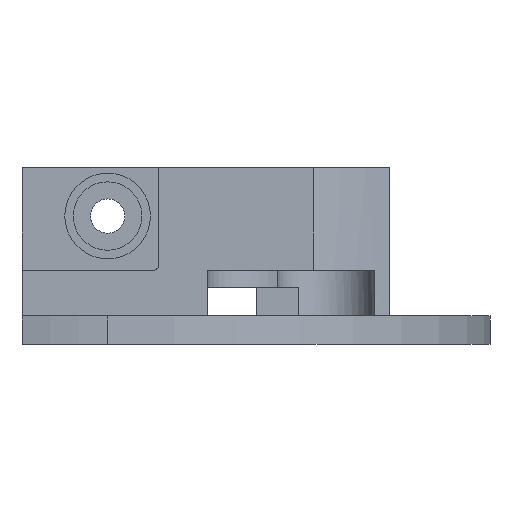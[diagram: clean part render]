
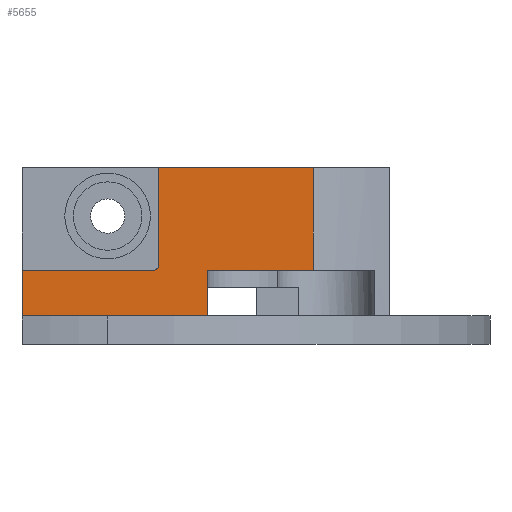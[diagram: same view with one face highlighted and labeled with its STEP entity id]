
A CAD part, left-side view. The second image highlights one B-rep face of the part: STEP entity #5655.
In plain terms, the highlighted planar face has unit normal (-1, 0, 0).
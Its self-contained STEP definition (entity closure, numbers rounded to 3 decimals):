
#29 = EDGE_CURVE ( 'NONE', #5305, #620, #4149, .T. ) ;
#215 = DIRECTION ( 'NONE',  ( 0., 0., 1. ) ) ;
#324 = ORIENTED_EDGE ( 'NONE', *, *, #835, .F. ) ;
#400 = DIRECTION ( 'NONE',  ( 0., 0., 1. ) ) ;
#469 = VERTEX_POINT ( 'NONE', #3338 ) ;
#477 = LINE ( 'NONE', #1999, #4125 ) ;
#482 = AXIS2_PLACEMENT_3D ( 'NONE', #947, #5920, #6384 ) ;
#568 = AXIS2_PLACEMENT_3D ( 'NONE', #714, #5584, #3489 ) ;
#620 = VERTEX_POINT ( 'NONE', #4646 ) ;
#714 = CARTESIAN_POINT ( 'NONE',  ( -56.5, 0., 33. ) ) ;
#737 = ORIENTED_EDGE ( 'NONE', *, *, #6151, .F. ) ;
#740 = LINE ( 'NONE', #1748, #2502 ) ;
#833 = VERTEX_POINT ( 'NONE', #3673 ) ;
#835 = EDGE_CURVE ( 'NONE', #6315, #6007, #477, .T. ) ;
#847 = ORIENTED_EDGE ( 'NONE', *, *, #1801, .F. ) ;
#947 = CARTESIAN_POINT ( 'NONE',  ( -56.5, -8., 14. ) ) ;
#955 = ORIENTED_EDGE ( 'NONE', *, *, #5606, .T. ) ;
#1022 = VECTOR ( 'NONE', #4374, 1000. ) ;
#1184 = LINE ( 'NONE', #6128, #4977 ) ;
#1194 = EDGE_LOOP ( 'NONE', ( #1253, #3619, #737, #324, #847, #6748, #6330, #5714, #955 ) ) ;
#1253 = ORIENTED_EDGE ( 'NONE', *, *, #4554, .T. ) ;
#1748 = CARTESIAN_POINT ( 'NONE',  ( -56.5, -17.45, 33. ) ) ;
#1801 = EDGE_CURVE ( 'NONE', #620, #6315, #1184, .T. ) ;
#1836 = CARTESIAN_POINT ( 'NONE',  ( -56.5, 0., 13. ) ) ;
#1884 = DIRECTION ( 'NONE',  ( 0., -1., 0. ) ) ;
#1999 = CARTESIAN_POINT ( 'NONE',  ( -56.5, -36.01, 33. ) ) ;
#2202 = CARTESIAN_POINT ( 'NONE',  ( -56.5, 0., 13. ) ) ;
#2373 = CARTESIAN_POINT ( 'NONE',  ( -56.5, -9., 14. ) ) ;
#2433 = CARTESIAN_POINT ( 'NONE',  ( -56.5, 0., 5. ) ) ;
#2502 = VECTOR ( 'NONE', #215, 1000. ) ;
#2632 = CARTESIAN_POINT ( 'NONE',  ( -56.5, -36.01, 31. ) ) ;
#2902 = CARTESIAN_POINT ( 'NONE',  ( -56.5, -17.45, 5. ) ) ;
#3003 = LINE ( 'NONE', #5649, #3187 ) ;
#3187 = VECTOR ( 'NONE', #4500, 1000. ) ;
#3234 = LINE ( 'NONE', #2202, #1022 ) ;
#3338 = CARTESIAN_POINT ( 'NONE',  ( -56.5, 15., 5. ) ) ;
#3367 = DIRECTION ( 'NONE',  ( 0., -1., 0. ) ) ;
#3420 = CARTESIAN_POINT ( 'NONE',  ( -56.5, -36.01, 13. ) ) ;
#3489 = DIRECTION ( 'NONE',  ( 0., 1., 0. ) ) ;
#3563 = CARTESIAN_POINT ( 'NONE',  ( -56.5, 15., 13. ) ) ;
#3619 = ORIENTED_EDGE ( 'NONE', *, *, #4437, .T. ) ;
#3673 = CARTESIAN_POINT ( 'NONE',  ( -56.5, -17.45, 13. ) ) ;
#4125 = VECTOR ( 'NONE', #6445, 1000. ) ;
#4149 = LINE ( 'NONE', #5299, #6576 ) ;
#4374 = DIRECTION ( 'NONE',  ( 0., 1., 0. ) ) ;
#4437 = EDGE_CURVE ( 'NONE', #5677, #833, #740, .T. ) ;
#4498 = LINE ( 'NONE', #2433, #4911 ) ;
#4500 = DIRECTION ( 'NONE',  ( 0., 0., -1. ) ) ;
#4554 = EDGE_CURVE ( 'NONE', #469, #5677, #4498, .T. ) ;
#4646 = CARTESIAN_POINT ( 'NONE',  ( -56.5, -9., 31. ) ) ;
#4911 = VECTOR ( 'NONE', #1884, 1000. ) ;
#4977 = VECTOR ( 'NONE', #3367, 1000. ) ;
#5128 = VECTOR ( 'NONE', #6800, 1000. ) ;
#5299 = CARTESIAN_POINT ( 'NONE',  ( -56.5, -9., 13. ) ) ;
#5300 = EDGE_CURVE ( 'NONE', #5716, #5828, #6735, .T. ) ;
#5305 = VERTEX_POINT ( 'NONE', #2373 ) ;
#5584 = DIRECTION ( 'NONE',  ( 1., 0., 0. ) ) ;
#5606 = EDGE_CURVE ( 'NONE', #5716, #469, #3003, .T. ) ;
#5621 = FACE_OUTER_BOUND ( 'NONE', #1194, .T. ) ;
#5649 = CARTESIAN_POINT ( 'NONE',  ( -56.5, 15., 33. ) ) ;
#5655 = ADVANCED_FACE ( 'NONE', ( #5621 ), #6218, .F. ) ;
#5677 = VERTEX_POINT ( 'NONE', #2902 ) ;
#5714 = ORIENTED_EDGE ( 'NONE', *, *, #5300, .F. ) ;
#5716 = VERTEX_POINT ( 'NONE', #3563 ) ;
#5828 = VERTEX_POINT ( 'NONE', #5935 ) ;
#5920 = DIRECTION ( 'NONE',  ( 1., 0., 0. ) ) ;
#5935 = CARTESIAN_POINT ( 'NONE',  ( -56.5, -8., 13. ) ) ;
#5964 = CIRCLE ( 'NONE', #482, 1. ) ;
#6007 = VERTEX_POINT ( 'NONE', #3420 ) ;
#6128 = CARTESIAN_POINT ( 'NONE',  ( -56.5, 0., 31. ) ) ;
#6151 = EDGE_CURVE ( 'NONE', #6007, #833, #3234, .T. ) ;
#6218 = PLANE ( 'NONE',  #568 ) ;
#6315 = VERTEX_POINT ( 'NONE', #2632 ) ;
#6330 = ORIENTED_EDGE ( 'NONE', *, *, #7062, .T. ) ;
#6384 = DIRECTION ( 'NONE',  ( 0., 1., 0. ) ) ;
#6445 = DIRECTION ( 'NONE',  ( 0., 0., -1. ) ) ;
#6576 = VECTOR ( 'NONE', #400, 1000. ) ;
#6735 = LINE ( 'NONE', #1836, #5128 ) ;
#6748 = ORIENTED_EDGE ( 'NONE', *, *, #29, .F. ) ;
#6800 = DIRECTION ( 'NONE',  ( 0., -1., 0. ) ) ;
#7062 = EDGE_CURVE ( 'NONE', #5305, #5828, #5964, .T. ) ;
